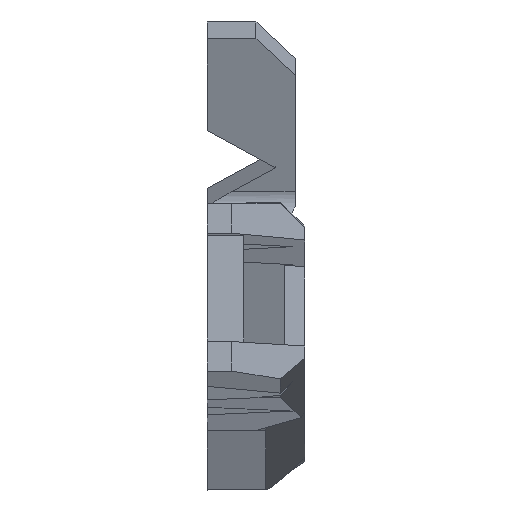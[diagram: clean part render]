
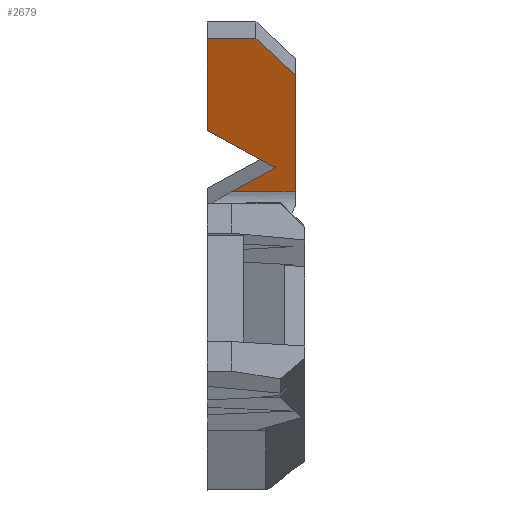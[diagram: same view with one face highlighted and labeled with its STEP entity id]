
A CAD part, front view. The second image highlights one B-rep face of the part: STEP entity #2679.
In plain terms, the highlighted planar face has unit normal (0, -0.94, -0.342).
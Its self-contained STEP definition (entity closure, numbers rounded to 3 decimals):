
#32 = CARTESIAN_POINT ( 'NONE',  ( 21.046, -104.488, 23.367 ) ) ;
#81 = DIRECTION ( 'NONE',  ( 1., 0., 0. ) ) ;
#310 = EDGE_CURVE ( 'NONE', #1707, #2255, #1225, .T. ) ;
#319 = CARTESIAN_POINT ( 'NONE',  ( 18., -105.39, 25.846 ) ) ;
#419 = VECTOR ( 'NONE', #1298, 1000. ) ;
#429 = ORIENTED_EDGE ( 'NONE', *, *, #310, .F. ) ;
#430 = DIRECTION ( 'NONE',  ( 0., -0.94, -0.342 ) ) ;
#448 = CARTESIAN_POINT ( 'NONE',  ( 20.8, -104.837, 24.327 ) ) ;
#531 = VECTOR ( 'NONE', #3007, 1000. ) ;
#587 = VECTOR ( 'NONE', #1433, 1000. ) ;
#619 = DIRECTION ( 'NONE',  ( -0.866, -0.171, 0.47 ) ) ;
#639 = VECTOR ( 'NONE', #2376, 1000. ) ;
#926 = VERTEX_POINT ( 'NONE', #319 ) ;
#992 = VERTEX_POINT ( 'NONE', #1366 ) ;
#1063 = CARTESIAN_POINT ( 'NONE',  ( 18., -106.758, 29.605 ) ) ;
#1073 = CARTESIAN_POINT ( 'NONE',  ( 20., -106.758, 29.605 ) ) ;
#1083 = CARTESIAN_POINT ( 'NONE',  ( 20., -106.758, 29.605 ) ) ;
#1104 = CARTESIAN_POINT ( 'NONE',  ( 18., -106.758, 29.605 ) ) ;
#1225 = LINE ( 'NONE', #1449, #531 ) ;
#1264 = VECTOR ( 'NONE', #619, 1000. ) ;
#1298 = DIRECTION ( 'NONE',  ( 0.866, -0.171, 0.47 ) ) ;
#1325 = EDGE_CURVE ( 'NONE', #2498, #926, #1881, .T. ) ;
#1340 = AXIS2_PLACEMENT_3D ( 'NONE', #2429, #430, #3233 ) ;
#1366 = CARTESIAN_POINT ( 'NONE',  ( 19.031, -104.488, 23.367 ) ) ;
#1382 = ORIENTED_EDGE ( 'NONE', *, *, #2444, .F. ) ;
#1397 = LINE ( 'NONE', #2484, #587 ) ;
#1433 = DIRECTION ( 'NONE',  ( 0.707, 0.242, -0.664 ) ) ;
#1449 = CARTESIAN_POINT ( 'NONE',  ( 21.6, -104.286, 22.812 ) ) ;
#1488 = CARTESIAN_POINT ( 'NONE',  ( 20.8, -104.837, 24.327 ) ) ;
#1525 = EDGE_LOOP ( 'NONE', ( #1382, #2871, #429, #3337, #2021, #2265, #2488 ) ) ;
#1575 = DIRECTION ( 'NONE',  ( 0., -0.342, 0.94 ) ) ;
#1668 = CARTESIAN_POINT ( 'NONE',  ( 21.6, -104.488, 23.367 ) ) ;
#1707 = VERTEX_POINT ( 'NONE', #2913 ) ;
#1713 = VERTEX_POINT ( 'NONE', #1104 ) ;
#1881 = LINE ( 'NONE', #2902, #1264 ) ;
#1900 = PLANE ( 'NONE',  #1340 ) ;
#2021 = ORIENTED_EDGE ( 'NONE', *, *, #3018, .F. ) ;
#2059 = LINE ( 'NONE', #1488, #419 ) ;
#2117 = VERTEX_POINT ( 'NONE', #1083 ) ;
#2255 = VERTEX_POINT ( 'NONE', #1668 ) ;
#2265 = ORIENTED_EDGE ( 'NONE', *, *, #3189, .F. ) ;
#2376 = DIRECTION ( 'NONE',  ( 1., 0., 0. ) ) ;
#2405 = VECTOR ( 'NONE', #81, 1000. ) ;
#2429 = CARTESIAN_POINT ( 'NONE',  ( 0., -84.755, -30.848 ) ) ;
#2444 = EDGE_CURVE ( 'NONE', #992, #2498, #2059, .T. ) ;
#2484 = CARTESIAN_POINT ( 'NONE',  ( 21.6, -106.211, 28.101 ) ) ;
#2488 = ORIENTED_EDGE ( 'NONE', *, *, #1325, .F. ) ;
#2498 = VERTEX_POINT ( 'NONE', #448 ) ;
#2529 = VECTOR ( 'NONE', #1575, 1000. ) ;
#2572 = EDGE_CURVE ( 'NONE', #992, #2255, #2872, .T. ) ;
#2679 = ADVANCED_FACE ( 'NONE', ( #3249 ), #1900, .T. ) ;
#2726 = EDGE_CURVE ( 'NONE', #2117, #1707, #1397, .T. ) ;
#2853 = LINE ( 'NONE', #1073, #639 ) ;
#2871 = ORIENTED_EDGE ( 'NONE', *, *, #2572, .T. ) ;
#2872 = LINE ( 'NONE', #32, #2405 ) ;
#2902 = CARTESIAN_POINT ( 'NONE',  ( 18., -105.39, 25.846 ) ) ;
#2913 = CARTESIAN_POINT ( 'NONE',  ( 21.6, -106.211, 28.101 ) ) ;
#3007 = DIRECTION ( 'NONE',  ( 0., 0.342, -0.94 ) ) ;
#3018 = EDGE_CURVE ( 'NONE', #1713, #2117, #2853, .T. ) ;
#3088 = LINE ( 'NONE', #1063, #2529 ) ;
#3189 = EDGE_CURVE ( 'NONE', #926, #1713, #3088, .T. ) ;
#3233 = DIRECTION ( 'NONE',  ( 0., 0.342, -0.94 ) ) ;
#3249 = FACE_OUTER_BOUND ( 'NONE', #1525, .T. ) ;
#3337 = ORIENTED_EDGE ( 'NONE', *, *, #2726, .F. ) ;
